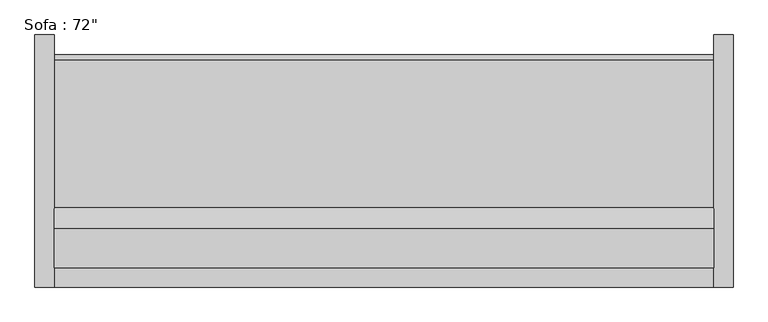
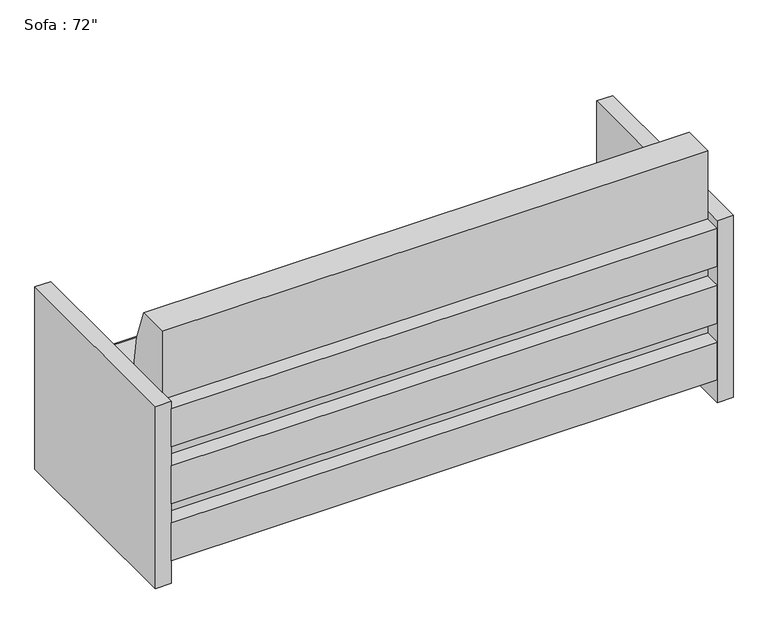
"""IFC4 building model written with IfcOpenShell, lengths in millimetres: furniture geometry."""

from ifc_helpers import new_model, si_unit, point, frame, frame_2d, origin, origin_with_axes, place, context, project, spatial, polyline, circle_curve, trimmed, segment, composite_curve, outline, extrude, source, transform, mapped, element, save


def furniture_4aa42607(model_context):
    return source(origin(), model_context, "Body", "SweptSolid", [
        extrude(outline(polyline([(-793.2295082, -425.5540984), (933.9704918, -425.5540984), (933.9704918, -476.3540984), (-793.2295082, -476.3540984), (-793.2295082, -425.5540984)])), frame((0.0, 0.0, 457.2), z_axis=(0.0, 0.0, 1.0), x_axis=(1.0, 0.0, 0.0)), (0.0, 0.0, 1.0), 127.0),
        extrude(outline(polyline([(-793.2295082, -425.5540984), (933.9704918, -425.5540984), (933.9704918, -476.3540984), (-793.2295082, -476.3540984), (-793.2295082, -425.5540984)])), frame((0.0, 0.0, 266.7), z_axis=(0.0, 0.0, 1.0), x_axis=(1.0, 0.0, 0.0)), (0.0, 0.0, 1.0), 127.0),
        extrude(outline(polyline([(-793.2295082, -425.5540984), (933.9704918, -425.5540984), (933.9704918, -476.3540984), (-793.2295082, -476.3540984), (-793.2295082, -425.5540984)])), frame((0.0, 0.0, 76.2), z_axis=(0.0, 0.0, 1.0), x_axis=(1.0, 0.0, 0.0)), (0.0, 0.0, 1.0), 127.0),
        extrude(outline(composite_curve([segment(polyline([(-286.1764935, 381.0), (119.3862837, 381.0)]), True, "CONTINUOUS"), segment(trimmed(circle_curve(frame_2d((119.3862837, 368.3)), 12.7), [point((119.3862837, 381.0))], [point((132.0379563, 367.1931221))], False, "CARTESIAN"), True, "CONTINUOUS"), segment(polyline([(132.0379563, 367.1931221), (111.108343, 127.9665467), (-425.5540984, 127.9665467), (-425.5540984, 812.8), (-323.9540984, 812.8)]), True, "CONTINUOUS"), segment(trimmed(circle_curve(frame_2d((-926.517198, 542.5300036)), 660.4), [point((-323.9540984, 812.8))], [point((-286.1764935, 381.0))], False, "CARTESIAN"), True, "CONTINUOUS")], self_intersect=False)), frame((-793.2295082, 0.0, 0.0), z_axis=(1.0, 0.0, 0.0), x_axis=(0.0, 1.0, 0.0)), (0.0, 0.0, 1.0), 1727.2),
        extrude(outline(polyline([(-844.0295082, -476.3540984), (-844.0295082, 184.0459016), (-793.2295082, 184.0459016), (-793.2295082, -476.3540984), (-844.0295082, -476.3540984)])), origin_with_axes(), (0.0, 0.0, 1.0), 609.6),
        extrude(outline(polyline([(984.7704918, -476.3540984), (933.9704918, -476.3540984), (933.9704918, 184.0459016), (984.7704918, 184.0459016), (984.7704918, -476.3540984)])), origin_with_axes(), (0.0, 0.0, 1.0), 609.6),
    ])


if __name__ == "__main__":
    model = new_model("IFC4")
    model_context = context("Model", 3, world=origin())
    ifc_project = project(units=[si_unit("LENGTHUNIT", "METRE", prefix="MILLI")], contexts=[model_context])
    site = spatial("IfcSite", under=ifc_project)
    building = spatial("IfcBuilding", under=site)
    placement = place(None, origin())
    furniture_shape = furniture_4aa42607(model_context)
    element("IfcFurniture", 1, ObjectType="Sofa : 72\"", at=placement, inside=building, context=model_context, shape_type="MappedRepresentation", body=[
        mapped(furniture_shape, transform((0.0, 0.0, 0.0), x_axis=(1.0, 0.0, 0.0), y_axis=(0.0, 1.0, 0.0), z_axis=(0.0, 0.0, 1.0))),
    ])
    save(model, "model.ifc")
